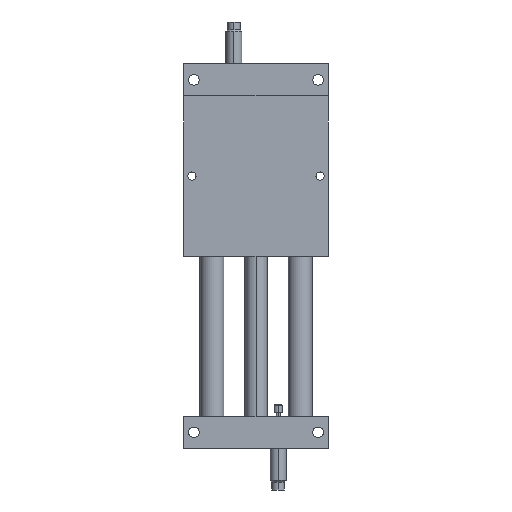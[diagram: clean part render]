
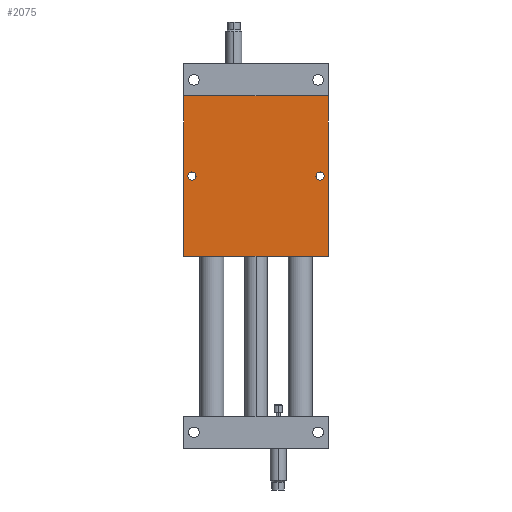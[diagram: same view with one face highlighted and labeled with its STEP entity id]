
A CAD part, front view. The second image highlights one B-rep face of the part: STEP entity #2075.
In plain terms, the highlighted planar face has unit normal (0, -1, 0).
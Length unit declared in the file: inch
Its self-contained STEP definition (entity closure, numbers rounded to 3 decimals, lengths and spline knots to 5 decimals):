
#73 = EDGE_CURVE ( 'NONE', #2425, #2096, #112, .T. ) ;
#112 = CIRCLE ( 'NONE', #1047, 0.1285 ) ;
#117 = ORIENTED_EDGE ( 'NONE', *, *, #2206, .T. ) ;
#134 = CIRCLE ( 'NONE', #1894, 0.1285 ) ;
#466 = PLANE ( 'NONE',  #2197 ) ;
#521 = CARTESIAN_POINT ( 'NONE',  ( -2., -0.75, 0.1285 ) ) ;
#602 = VECTOR ( 'NONE', #3135, 39.37008 ) ;
#660 = EDGE_CURVE ( 'NONE', #4158, #3276, #2570, .T. ) ;
#775 = EDGE_CURVE ( 'NONE', #3669, #3079, #4199, .T. ) ;
#819 = DIRECTION ( 'NONE',  ( 0., 1., 0. ) ) ;
#903 = VECTOR ( 'NONE', #2549, 39.37008 ) ;
#926 = EDGE_CURVE ( 'NONE', #2096, #2425, #1757, .T. ) ;
#1019 = EDGE_LOOP ( 'NONE', ( #2692, #117 ) ) ;
#1047 = AXIS2_PLACEMENT_3D ( 'NONE', #2887, #3025, #2814 ) ;
#1076 = ORIENTED_EDGE ( 'NONE', *, *, #775, .F. ) ;
#1083 = EDGE_CURVE ( 'NONE', #3079, #4158, #1435, .T. ) ;
#1116 = FACE_BOUND ( 'NONE', #2495, .T. ) ;
#1142 = VECTOR ( 'NONE', #3412, 39.37008 ) ;
#1207 = DIRECTION ( 'NONE',  ( 0., 1., 0. ) ) ;
#1224 = VECTOR ( 'NONE', #3969, 39.37008 ) ;
#1395 = VERTEX_POINT ( 'NONE', #3438 ) ;
#1435 = LINE ( 'NONE', #4315, #1224 ) ;
#1448 = ORIENTED_EDGE ( 'NONE', *, *, #2802, .F. ) ;
#1485 = DIRECTION ( 'NONE',  ( 0., 0., 1. ) ) ;
#1488 = CIRCLE ( 'NONE', #3324, 0.1285 ) ;
#1530 = CARTESIAN_POINT ( 'NONE',  ( -2., -0.75, -0.1285 ) ) ;
#1558 = ORIENTED_EDGE ( 'NONE', *, *, #660, .F. ) ;
#1757 = CIRCLE ( 'NONE', #3054, 0.1285 ) ;
#1765 = DIRECTION ( 'NONE',  ( 0., 1., 0. ) ) ;
#1872 = CARTESIAN_POINT ( 'NONE',  ( 2.25, -0.75, -2.5 ) ) ;
#1878 = ORIENTED_EDGE ( 'NONE', *, *, #1083, .F. ) ;
#1894 = AXIS2_PLACEMENT_3D ( 'NONE', #2829, #819, #3174 ) ;
#1917 = FACE_BOUND ( 'NONE', #1019, .T. ) ;
#2014 = EDGE_LOOP ( 'NONE', ( #1448, #1558, #1878, #1076 ) ) ;
#2075 = ADVANCED_FACE ( 'NONE', ( #1116, #1917, #2909 ), #466, .F. ) ;
#2096 = VERTEX_POINT ( 'NONE', #521 ) ;
#2153 = CARTESIAN_POINT ( 'NONE',  ( -2.25, -0.75, 2.5 ) ) ;
#2197 = AXIS2_PLACEMENT_3D ( 'NONE', #2153, #3519, #1485 ) ;
#2206 = EDGE_CURVE ( 'NONE', #1395, #3576, #1488, .T. ) ;
#2357 = EDGE_CURVE ( 'NONE', #3576, #1395, #134, .T. ) ;
#2370 = CARTESIAN_POINT ( 'NONE',  ( -2.25, -0.75, -2.5 ) ) ;
#2378 = ORIENTED_EDGE ( 'NONE', *, *, #926, .T. ) ;
#2408 = CARTESIAN_POINT ( 'NONE',  ( -2.25, -0.75, 2.5 ) ) ;
#2425 = VERTEX_POINT ( 'NONE', #1530 ) ;
#2495 = EDGE_LOOP ( 'NONE', ( #2378, #2877 ) ) ;
#2549 = DIRECTION ( 'NONE',  ( -1., 0., 0. ) ) ;
#2570 = LINE ( 'NONE', #2370, #903 ) ;
#2692 = ORIENTED_EDGE ( 'NONE', *, *, #2357, .T. ) ;
#2693 = CARTESIAN_POINT ( 'NONE',  ( -2.25, -0.75, -2.5 ) ) ;
#2718 = CARTESIAN_POINT ( 'NONE',  ( 2., -0.75, 0.1285 ) ) ;
#2802 = EDGE_CURVE ( 'NONE', #3276, #3669, #2928, .T. ) ;
#2814 = DIRECTION ( 'NONE',  ( 0., 0., 1. ) ) ;
#2829 = CARTESIAN_POINT ( 'NONE',  ( 2., -0.75, 0. ) ) ;
#2877 = ORIENTED_EDGE ( 'NONE', *, *, #73, .T. ) ;
#2887 = CARTESIAN_POINT ( 'NONE',  ( -2., -0.75, 0. ) ) ;
#2909 = FACE_OUTER_BOUND ( 'NONE', #2014, .T. ) ;
#2928 = LINE ( 'NONE', #2693, #1142 ) ;
#3025 = DIRECTION ( 'NONE',  ( 0., 1., 0. ) ) ;
#3054 = AXIS2_PLACEMENT_3D ( 'NONE', #3218, #1207, #3580 ) ;
#3079 = VERTEX_POINT ( 'NONE', #4224 ) ;
#3135 = DIRECTION ( 'NONE',  ( 1., 0., 0. ) ) ;
#3174 = DIRECTION ( 'NONE',  ( 0., 0., 1. ) ) ;
#3218 = CARTESIAN_POINT ( 'NONE',  ( -2., -0.75, 0. ) ) ;
#3276 = VERTEX_POINT ( 'NONE', #4320 ) ;
#3324 = AXIS2_PLACEMENT_3D ( 'NONE', #3804, #1765, #4127 ) ;
#3412 = DIRECTION ( 'NONE',  ( 0., 0., 1. ) ) ;
#3438 = CARTESIAN_POINT ( 'NONE',  ( 2., -0.75, -0.1285 ) ) ;
#3519 = DIRECTION ( 'NONE',  ( 0., 1., 0. ) ) ;
#3576 = VERTEX_POINT ( 'NONE', #2718 ) ;
#3580 = DIRECTION ( 'NONE',  ( 0., 0., 1. ) ) ;
#3669 = VERTEX_POINT ( 'NONE', #2408 ) ;
#3804 = CARTESIAN_POINT ( 'NONE',  ( 2., -0.75, 0. ) ) ;
#3969 = DIRECTION ( 'NONE',  ( 0., 0., -1. ) ) ;
#4127 = DIRECTION ( 'NONE',  ( 0., 0., 1. ) ) ;
#4158 = VERTEX_POINT ( 'NONE', #1872 ) ;
#4166 = CARTESIAN_POINT ( 'NONE',  ( -2.25, -0.75, 2.5 ) ) ;
#4199 = LINE ( 'NONE', #4166, #602 ) ;
#4224 = CARTESIAN_POINT ( 'NONE',  ( 2.25, -0.75, 2.5 ) ) ;
#4315 = CARTESIAN_POINT ( 'NONE',  ( 2.25, -0.75, -2.5 ) ) ;
#4320 = CARTESIAN_POINT ( 'NONE',  ( -2.25, -0.75, -2.5 ) ) ;
